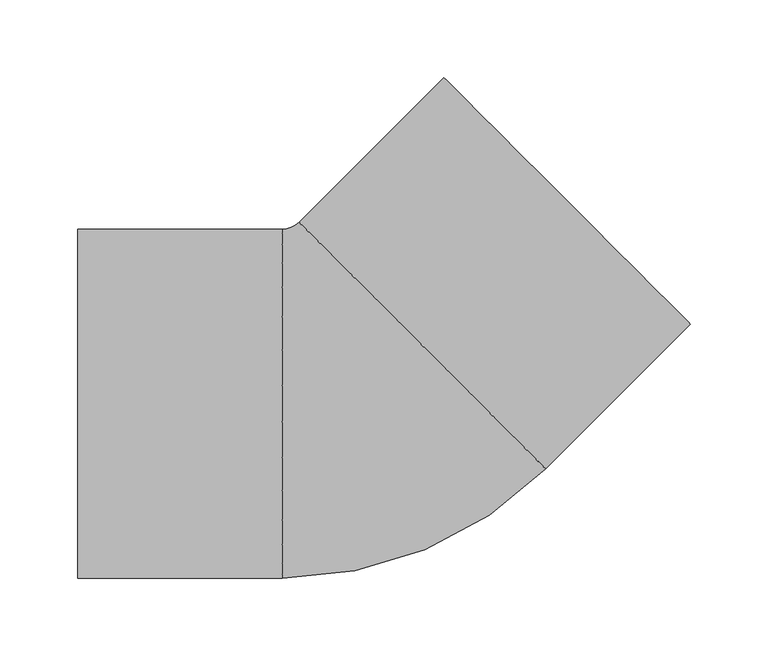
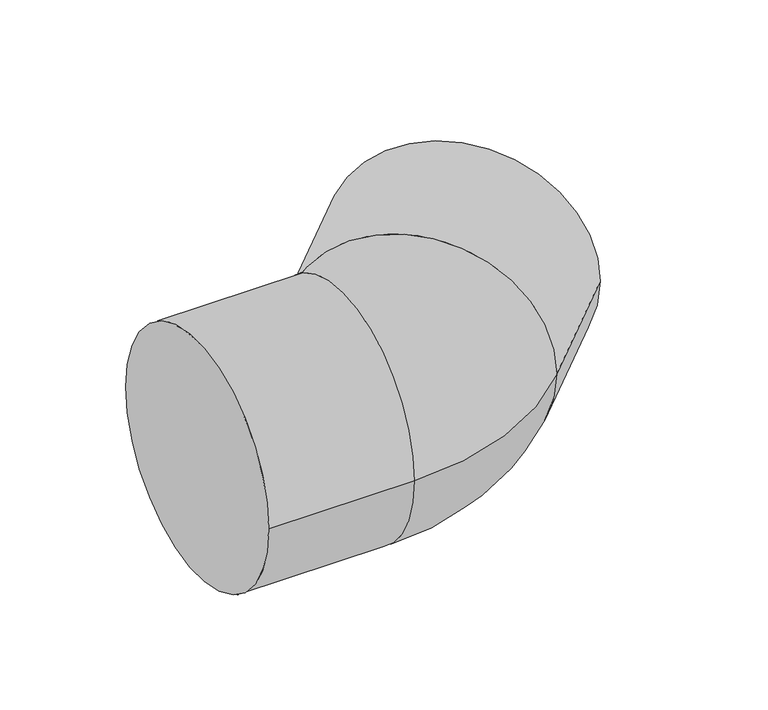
"""IFC4 building model written with IfcOpenShell, lengths in millimetres: pipe fitting geometry, 01051067 : Joelho a 45º."""

from ifc_helpers import new_model, si_unit, point, frame, origin, place, context, project, spatial, circle_curve, ellipse_curve, trimmed, source, transform, mapped, element, save
from ifc_brep_helpers import plane_surface, cylinder_surface, revolved_surface, advanced_brep


def pipe_fitting_964e8b58(model_context):
    return source(origin(), model_context, "Body", "AdvancedBrep", [
        advanced_brep(
        [(-185.0, -112.5, 0.0), (-185.0, 112.5, 0.0), (-53.0, -112.5, 0.0), (-53.0, 112.5, 0.0), (-42.0728535, 117.0261723, 0.0), (117.0261723, -42.0728535, 0.0), (210.3642674, 51.2652416, 0.0), (51.2652416, 210.3642674, 0.0)],
        [
            (0, 1, circle_curve(frame((-185.0, 0.0, 0.0), z_axis=(-1.0, 0.0, 0.0), x_axis=(0.0, 1.0, 0.0)), 112.5)),
            (1, 0, circle_curve(frame((-185.0, 0.0, 0.0), z_axis=(-1.0, 0.0, 0.0), x_axis=(0.0, 1.0, 0.0)), 112.5)),
            (0, 2),
            (2, 3, circle_curve(frame((-53.0, 0.0, 0.0), z_axis=(-1.0, 0.0, 0.0), x_axis=(0.0, 1.0, 0.0)), 112.5)),
            (3, 1),
            (3, 2, circle_curve(frame((-53.0, 0.0, 0.0), z_axis=(-1.0, 0.0, 0.0), x_axis=(0.0, 1.0, 0.0)), 112.5)),
            (4, 3, circle_curve(frame((-53.0, 127.9533188, 0.0), z_axis=(0.0, 0.0, -1.0), x_axis=(0.0, -1.0, 0.0)), 15.4533188)),
            (2, 5, circle_curve(frame((-53.0, 127.9533188, 0.0), z_axis=(0.0, 0.0, 1.0), x_axis=(0.0, -1.0, 0.0)), 240.4533188)),
            (5, 4, circle_curve(frame((37.4766594, 37.4766594, 0.0), z_axis=(-0.7071067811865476, -0.7071067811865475, 0.0), x_axis=(-0.7071067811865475, 0.7071067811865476, 0.0)), 112.5)),
            (4, 5, circle_curve(frame((37.4766594, 37.4766594, 0.0), z_axis=(-0.7071067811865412, -0.7071067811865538, 0.0), x_axis=(-0.7071067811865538, 0.7071067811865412, 0.0)), 112.5)),
            (6, 7, circle_curve(frame((130.8147545, 130.8147545, 0.0), z_axis=(0.7071067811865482, 0.7071067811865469, 0.0), x_axis=(-0.7071067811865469, 0.7071067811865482, 0.0)), 112.5)),
            (7, 6, circle_curve(frame((130.8147545, 130.8147545, 0.0), z_axis=(0.7071067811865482, 0.7071067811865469, 0.0), x_axis=(-0.7071067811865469, 0.7071067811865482, 0.0)), 112.5)),
            (5, 6),
            (7, 4),
        ],
        [
            plane_surface(frame((-185.0, 0.0, 0.0), z_axis=(-1.0, 0.0, 0.0), x_axis=(0.0, 0.0, 1.0))),
            cylinder_surface(frame((-185.0, 0.0, 0.0), z_axis=(-1.0, 0.0, 0.0), x_axis=(0.0, 1.0, 0.0)), 112.5),
            revolved_surface(trimmed(ellipse_curve(frame((-53.0, 0.0, 0.0), z_axis=(-1.0, 0.0, 0.0), x_axis=(0.0, 1.0, 0.0)), 112.5, 112.5), [point((-53.0, -112.5, 0.0))], [point((-53.0, 112.5, 0.0))], True, "CARTESIAN"), (-53.0, 127.9533188, 0.0), (0.0, 0.0, 1.0)),
            revolved_surface(trimmed(ellipse_curve(frame((-53.0, 0.0, 0.0), z_axis=(-1.0, 0.0, 0.0), x_axis=(0.0, 1.0, 0.0)), 112.5, 112.5), [point((-53.0, 112.5, 0.0))], [point((-53.0, -112.5, 0.0))], True, "CARTESIAN"), (-53.0, 127.9533188, 0.0), (0.0, 0.0, 1.0)),
            plane_surface(frame((130.8147545, 130.8147545, 0.0), z_axis=(0.7071067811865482, 0.7071067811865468, 0.0), x_axis=(0.0, 0.0, 1.0))),
            cylinder_surface(frame((37.4766594, 37.4766594, 0.0), z_axis=(-0.7071067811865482, -0.7071067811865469, 0.0), x_axis=(-0.7071067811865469, 0.7071067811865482, 0.0)), 112.5),
        ],
        [
            (0, [[1, 2]]),
            (1, [[-1, 3, 4, 5]]),
            (1, [[-2, -5, 6, -3]]),
            (2, [[7, -4, 8, 9]]),
            (3, [[-8, -6, -7, 10]]),
            (4, [[11, 12]]),
            (5, [[-9, 13, -12, 14]]),
            (5, [[-10, -14, -11, -13]]),
        ],
    ),
    ])


if __name__ == "__main__":
    model = new_model("IFC4")
    model_context = context("Model", 3, world=origin())
    ifc_project = project(units=[si_unit("LENGTHUNIT", "METRE", prefix="MILLI")], contexts=[model_context])
    site = spatial("IfcSite", under=ifc_project)
    building = spatial("IfcBuilding", under=site)
    placement = place(None, origin())
    pipe_fitting_shape = pipe_fitting_964e8b58(model_context)
    element("IfcPipeFitting", 1, ObjectType="01051067 : Joelho a 45º", at=placement, inside=building, context=model_context, shape_type="MappedRepresentation", body=[
        mapped(pipe_fitting_shape, transform((0.0, 0.0, 0.0), x_axis=(1.0, 0.0, 0.0), y_axis=(0.0, 1.0, 0.0), z_axis=(0.0, 0.0, 1.0))),
    ])
    save(model, "model.ifc")
